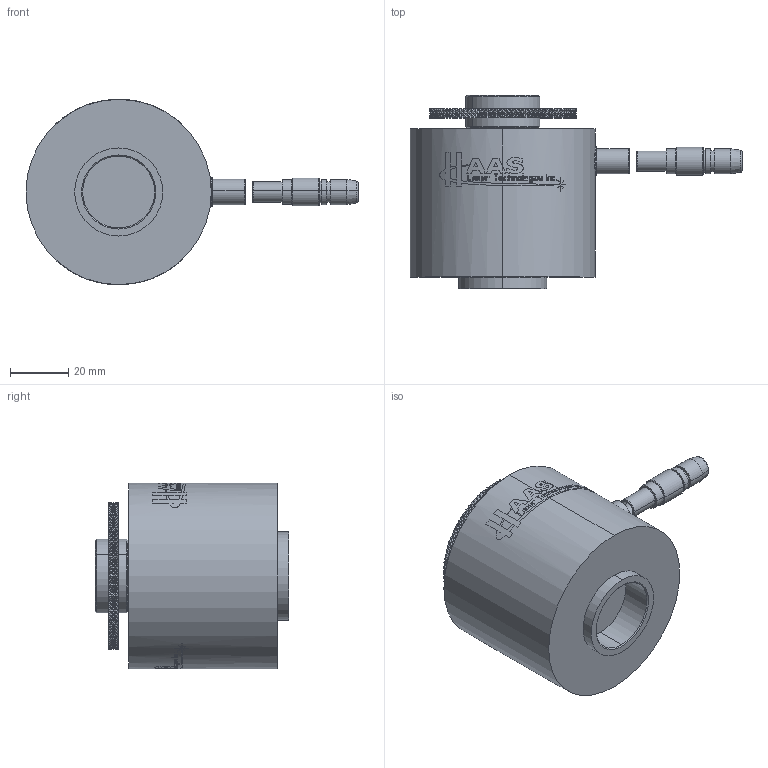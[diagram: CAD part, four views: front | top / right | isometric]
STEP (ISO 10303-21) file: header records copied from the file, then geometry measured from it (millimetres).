
FILE_DESCRIPTION (( 'STEP AP214' ), '1' );
FILE_NAME ('CP-19-H.STEP', '2016-08-09T19:04:34', ( '' ), ( '' ), 'SwSTEP 2.0', 'SolidWorks 2016', '' );
FILE_SCHEMA (( 'AUTOMOTIVE_DESIGN' ));
Length unit declared in the file: inch
Products named in the file (1): CP-19-H
Bounding box: 113.74 x 66.15 x 63.5 mm (x, y, z)
Volume: 164149.4 mm3; surface area: 25416.7 mm2
Topology: 2 solids, 2 shells, 3080 faces, 7023 edges, 4036 vertices
Faces by surface type: plane 2428, cylinder 624, torus 20, cone 8
Entity records: 84919 total; most frequent: CARTESIAN_POINT 22609, ORIENTED_EDGE 14046, DIRECTION 11327, EDGE_CURVE 7023, LINE 4469, VECTOR 4469, VERTEX_POINT 4036, AXIS2_PLACEMENT_3D 3429
